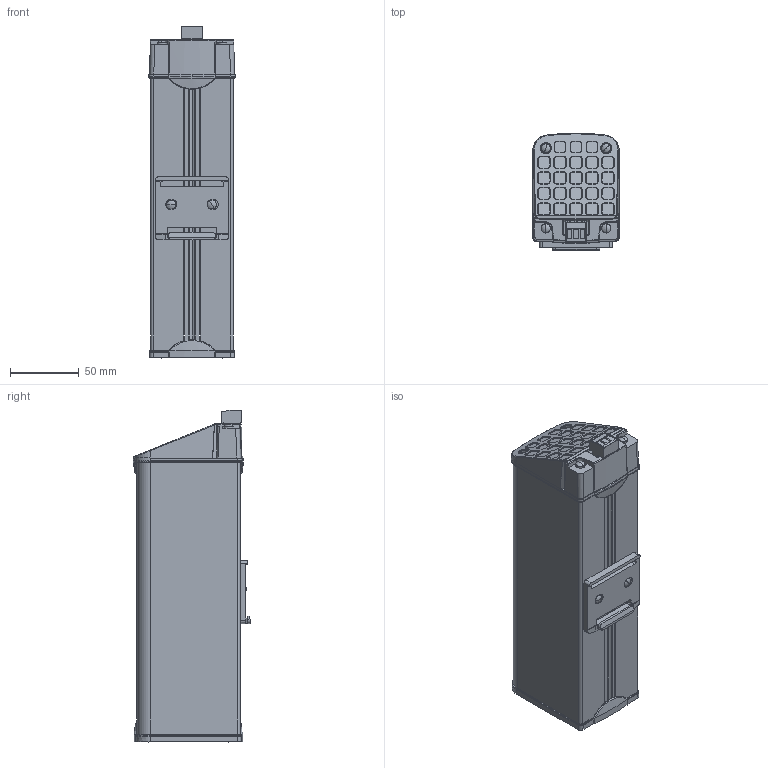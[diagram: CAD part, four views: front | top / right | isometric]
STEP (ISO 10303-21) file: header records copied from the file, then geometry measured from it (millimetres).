
FILE_DESCRIPTION (( 'STEP AP214' ), '1' );
FILE_NAME ('HTM150-1.STEP', '2026-01-27T09:06:02', ( '' ), ( '' ), 'SwSTEP 2.0', 'SolidWorks 2022', '' );
FILE_SCHEMA (( 'AUTOMOTIVE_DESIGN' ));
Length unit declared in the file: millimetre
Products named in the file (12): Rivetto; Vite ST3.5x38_semplificata; 2EDGKF-5.0-03P-04_semplificata; Copertura Alluminio_Lungh. L200 mm semplificata; HTM150-1; Profilo dissipatore deformato_Lung.200mm semplificato; Tappo Plastico di estremità_tappo semplificato; DT-04539DSI_Semplificata; Base plastica CLIP_CLIP-01 semplificata; DT-04537DSI_Metallica semplificata; Vite ST3.5_semplificata
Assembly tree (18 placements, depth 2):
  HTM150-1
    Profilo dissipatore deformato_Lung.200mm semplificato
    Copertura Alluminio_Lungh. L200 mm semplificata
    Copertura Alluminio_Lungh. L200 mm semplificata
    Rivetto  x2
    Base plastica CLIP_CLIP-01 semplificata
    Tappo Plastico di estremità_tappo semplificato
    Vite ST3.5_semplificata  x6
    Vite ST3.5x38_semplificata  x2
    DT-04539DSI_Semplificata
    DT-04537DSI_Metallica semplificata
    2EDGKF-5.0-03P-04_semplificata
Bounding box: 62.7 x 85.3 x 241.25 mm (x, y, z)
Volume: 993829.4 mm3; surface area: 161676 mm2
Topology: 18 solids, 18 shells, 1254 faces, 3172 edges, 1994 vertices
Faces by surface type: plane 487, cylinder 285, cone 262, bspline 158, torus 32, sphere 30
Entity records: 43752 total; most frequent: CARTESIAN_POINT 14567, ORIENTED_EDGE 6152, DIRECTION 5393, EDGE_CURVE 3076, VERTEX_POINT 1938, AXIS2_PLACEMENT_3D 1861, VECTOR 1671, LINE 1671
